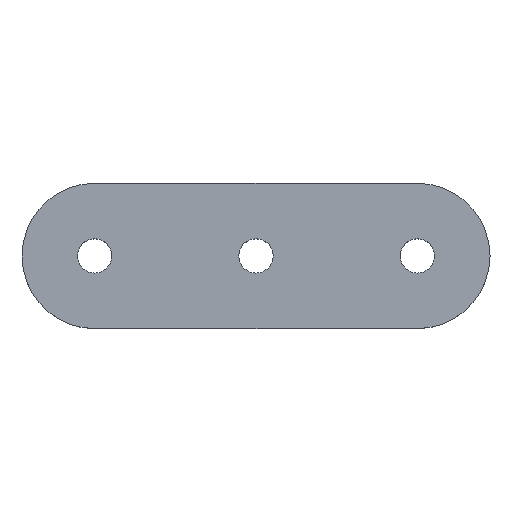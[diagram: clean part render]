
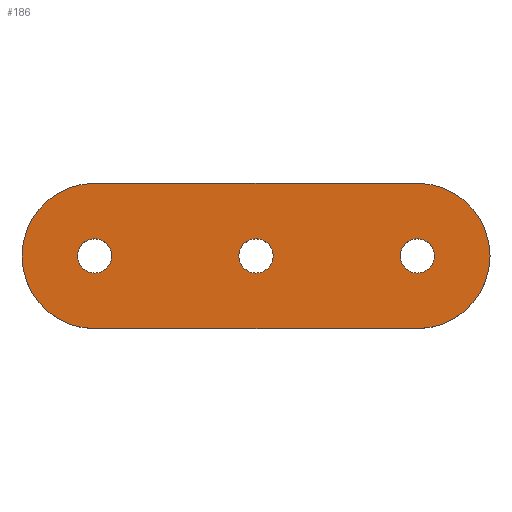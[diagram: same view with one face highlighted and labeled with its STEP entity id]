
A CAD part, top view. The second image highlights one B-rep face of the part: STEP entity #186.
In plain terms, the highlighted planar face has unit normal (0, 0, 1).
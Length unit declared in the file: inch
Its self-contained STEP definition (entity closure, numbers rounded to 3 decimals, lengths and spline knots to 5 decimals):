
#5 = FACE_BOUND ( 'NONE', #667, .T. ) ;
#14 = FACE_BOUND ( 'NONE', #178, .T. ) ;
#16 = FACE_OUTER_BOUND ( 'NONE', #187, .T. ) ;
#17 = FACE_BOUND ( 'NONE', #188, .T. ) ;
#28 = VERTEX_POINT ( 'NONE', #670 ) ;
#39 = CIRCLE ( 'NONE', #399, 0.5625 ) ;
#46 = VERTEX_POINT ( 'NONE', #718 ) ;
#52 = VERTEX_POINT ( 'NONE', #637 ) ;
#59 = ORIENTED_EDGE ( 'NONE', *, *, #563, .T. ) ;
#60 = ORIENTED_EDGE ( 'NONE', *, *, #483, .T. ) ;
#83 = CIRCLE ( 'NONE', #386, 0.5625 ) ;
#137 = LINE ( 'NONE', #306, #648 ) ;
#138 = CIRCLE ( 'NONE', #379, 0.133 ) ;
#160 = CIRCLE ( 'NONE', #335, 0.133 ) ;
#178 = EDGE_LOOP ( 'NONE', ( #681, #663 ) ) ;
#186 = ADVANCED_FACE ( 'NONE', ( #14, #5, #16, #17 ), #581, .T. ) ;
#187 = EDGE_LOOP ( 'NONE', ( #628, #623, #621, #595, #60, #59 ) ) ;
#188 = EDGE_LOOP ( 'NONE', ( #582, #576 ) ) ;
#189 = VERTEX_POINT ( 'NONE', #575 ) ;
#204 = VERTEX_POINT ( 'NONE', #513 ) ;
#215 = AXIS2_PLACEMENT_3D ( 'NONE', #264, #262, #260 ) ;
#232 = DIRECTION ( 'NONE',  ( 0., 0., 1. ) ) ;
#233 = VERTEX_POINT ( 'NONE', #511 ) ;
#246 = VERTEX_POINT ( 'NONE', #501 ) ;
#250 = VERTEX_POINT ( 'NONE', #498 ) ;
#253 = VERTEX_POINT ( 'NONE', #502 ) ;
#255 = VERTEX_POINT ( 'NONE', #496 ) ;
#260 = DIRECTION ( 'NONE',  ( 1., 0., 0. ) ) ;
#262 = DIRECTION ( 'NONE',  ( 0., 0., 1. ) ) ;
#264 = CARTESIAN_POINT ( 'NONE',  ( 0.625, 0., 0.18 ) ) ;
#296 = DIRECTION ( 'NONE',  ( -1., 0., 0. ) ) ;
#302 = DIRECTION ( 'NONE',  ( 1., 0., 0. ) ) ;
#303 = DIRECTION ( 'NONE',  ( 0., 0., 1. ) ) ;
#304 = CARTESIAN_POINT ( 'NONE',  ( -0.625, 0., 0.18 ) ) ;
#306 = CARTESIAN_POINT ( 'NONE',  ( 0.625, 0.5625, 0.18 ) ) ;
#331 = CIRCLE ( 'NONE', #411, 0.5625 ) ;
#335 = AXIS2_PLACEMENT_3D ( 'NONE', #304, #303, #302 ) ;
#343 = CARTESIAN_POINT ( 'NONE',  ( -0.758, 0., 0.18 ) ) ;
#344 = DIRECTION ( 'NONE',  ( 1., 0., 0. ) ) ;
#346 = DIRECTION ( 'NONE',  ( 0., 0., 1. ) ) ;
#349 = CARTESIAN_POINT ( 'NONE',  ( -0.625, 0., 0.18 ) ) ;
#354 = DIRECTION ( 'NONE',  ( -1., 0., 0. ) ) ;
#355 = DIRECTION ( 'NONE',  ( 0., 0., 1. ) ) ;
#356 = CARTESIAN_POINT ( 'NONE',  ( 1.875, 0., 0.18 ) ) ;
#367 = DIRECTION ( 'NONE',  ( 1., 0., 0. ) ) ;
#369 = DIRECTION ( 'NONE',  ( 0., 0., 1. ) ) ;
#371 = CARTESIAN_POINT ( 'NONE',  ( -0.625, 0., 0.18 ) ) ;
#379 = AXIS2_PLACEMENT_3D ( 'NONE', #349, #346, #344 ) ;
#384 = AXIS2_PLACEMENT_3D ( 'NONE', #356, #355, #354 ) ;
#386 = AXIS2_PLACEMENT_3D ( 'NONE', #371, #369, #367 ) ;
#391 = DIRECTION ( 'NONE',  ( 1., 0., 0. ) ) ;
#392 = CARTESIAN_POINT ( 'NONE',  ( 1.742, 0., 0.18 ) ) ;
#393 = AXIS2_PLACEMENT_3D ( 'NONE', #400, #397, #396 ) ;
#396 = DIRECTION ( 'NONE',  ( -1., 0., 0. ) ) ;
#397 = DIRECTION ( 'NONE',  ( 0., 0., 1. ) ) ;
#399 = AXIS2_PLACEMENT_3D ( 'NONE', #412, #408, #407 ) ;
#400 = CARTESIAN_POINT ( 'NONE',  ( 1.875, 0., 0.18 ) ) ;
#404 = AXIS2_PLACEMENT_3D ( 'NONE', #430, #427, #426 ) ;
#406 = CARTESIAN_POINT ( 'NONE',  ( -0.625, -0.5625, 0.18 ) ) ;
#407 = DIRECTION ( 'NONE',  ( -1., 0., 0. ) ) ;
#408 = DIRECTION ( 'NONE',  ( 0., 0., 1. ) ) ;
#411 = AXIS2_PLACEMENT_3D ( 'NONE', #441, #439, #437 ) ;
#412 = CARTESIAN_POINT ( 'NONE',  ( 1.875, 0., 0.18 ) ) ;
#426 = DIRECTION ( 'NONE',  ( 1., 0., 0. ) ) ;
#427 = DIRECTION ( 'NONE',  ( 0., 0., 1. ) ) ;
#428 = AXIS2_PLACEMENT_3D ( 'NONE', #481, #480, #479 ) ;
#430 = CARTESIAN_POINT ( 'NONE',  ( -0.625, 0., 0.18 ) ) ;
#431 = EDGE_CURVE ( 'NONE', #250, #246, #713, .T. ) ;
#437 = DIRECTION ( 'NONE',  ( -1., 0., 0. ) ) ;
#439 = DIRECTION ( 'NONE',  ( 0., 0., 1. ) ) ;
#441 = CARTESIAN_POINT ( 'NONE',  ( 1.875, 0., 0.18 ) ) ;
#451 = EDGE_CURVE ( 'NONE', #46, #189, #331, .T. ) ;
#470 = EDGE_CURVE ( 'NONE', #52, #233, #709, .T. ) ;
#479 = DIRECTION ( 'NONE',  ( 1., 0., 0. ) ) ;
#480 = DIRECTION ( 'NONE',  ( 0., 0., 1. ) ) ;
#481 = CARTESIAN_POINT ( 'NONE',  ( 0.625, 0., 0.18 ) ) ;
#483 = EDGE_CURVE ( 'NONE', #189, #253, #39, .T. ) ;
#486 = EDGE_CURVE ( 'NONE', #500, #204, #689, .T. ) ;
#496 = CARTESIAN_POINT ( 'NONE',  ( -0.492, 0., 0.18 ) ) ;
#497 = EDGE_CURVE ( 'NONE', #233, #46, #688, .T. ) ;
#498 = CARTESIAN_POINT ( 'NONE',  ( 0.492, 0., 0.18 ) ) ;
#500 = VERTEX_POINT ( 'NONE', #392 ) ;
#501 = CARTESIAN_POINT ( 'NONE',  ( 0.758, 0., 0.18 ) ) ;
#502 = CARTESIAN_POINT ( 'NONE',  ( 1.875, 0.5625, 0.18 ) ) ;
#508 = EDGE_CURVE ( 'NONE', #28, #52, #83, .T. ) ;
#511 = CARTESIAN_POINT ( 'NONE',  ( -0.625, -0.5625, 0.18 ) ) ;
#513 = CARTESIAN_POINT ( 'NONE',  ( 2.008, 0., 0.18 ) ) ;
#518 = EDGE_CURVE ( 'NONE', #204, #500, #615, .T. ) ;
#529 = EDGE_CURVE ( 'NONE', #255, #608, #138, .T. ) ;
#533 = AXIS2_PLACEMENT_3D ( 'NONE', #550, #232, #549 ) ;
#548 = EDGE_CURVE ( 'NONE', #608, #255, #160, .T. ) ;
#549 = DIRECTION ( 'NONE',  ( 1., 0., 0. ) ) ;
#550 = CARTESIAN_POINT ( 'NONE',  ( -0.625, 0., 0.18 ) ) ;
#563 = EDGE_CURVE ( 'NONE', #253, #28, #137, .T. ) ;
#575 = CARTESIAN_POINT ( 'NONE',  ( 2.4375, 0., 0.18 ) ) ;
#576 = ORIENTED_EDGE ( 'NONE', *, *, #486, .F. ) ;
#581 = PLANE ( 'NONE',  #533 ) ;
#582 = ORIENTED_EDGE ( 'NONE', *, *, #518, .F. ) ;
#595 = ORIENTED_EDGE ( 'NONE', *, *, #451, .T. ) ;
#608 = VERTEX_POINT ( 'NONE', #343 ) ;
#615 = CIRCLE ( 'NONE', #384, 0.133 ) ;
#621 = ORIENTED_EDGE ( 'NONE', *, *, #497, .T. ) ;
#623 = ORIENTED_EDGE ( 'NONE', *, *, #470, .T. ) ;
#628 = ORIENTED_EDGE ( 'NONE', *, *, #508, .T. ) ;
#635 = ORIENTED_EDGE ( 'NONE', *, *, #548, .F. ) ;
#637 = CARTESIAN_POINT ( 'NONE',  ( -1.1875, 0., 0.18 ) ) ;
#642 = CIRCLE ( 'NONE', #215, 0.133 ) ;
#648 = VECTOR ( 'NONE', #296, 39.37008 ) ;
#659 = ORIENTED_EDGE ( 'NONE', *, *, #529, .F. ) ;
#663 = ORIENTED_EDGE ( 'NONE', *, *, #431, .F. ) ;
#667 = EDGE_LOOP ( 'NONE', ( #659, #635 ) ) ;
#670 = CARTESIAN_POINT ( 'NONE',  ( -0.625, 0.5625, 0.18 ) ) ;
#681 = ORIENTED_EDGE ( 'NONE', *, *, #755, .F. ) ;
#688 = LINE ( 'NONE', #406, #723 ) ;
#689 = CIRCLE ( 'NONE', #393, 0.133 ) ;
#709 = CIRCLE ( 'NONE', #404, 0.5625 ) ;
#713 = CIRCLE ( 'NONE', #428, 0.133 ) ;
#718 = CARTESIAN_POINT ( 'NONE',  ( 1.875, -0.5625, 0.18 ) ) ;
#723 = VECTOR ( 'NONE', #391, 39.37008 ) ;
#755 = EDGE_CURVE ( 'NONE', #246, #250, #642, .T. ) ;
